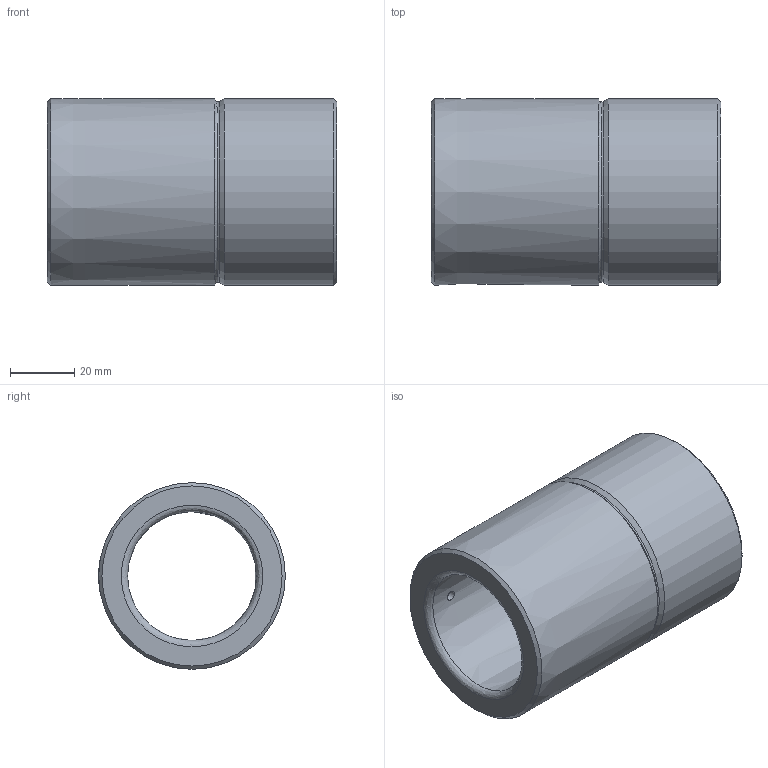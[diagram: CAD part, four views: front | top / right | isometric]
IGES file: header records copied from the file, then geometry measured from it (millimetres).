
Start section: Data from Parasolid IGES Translator 20.0.26, Copyright(c) 2006 Siemens P LM Software. All Rights Reserved.
Global section: file name: WZ 4068 40 x 90.igs; native system: By Siemens PLM Incorporated; preprocessor: XPlus GENERIC/IGES 20.0.26; author: Noname; organization: Noname; date: 20201126.202318; units: millimetre
Bounding box: 90 x 58.04 x 58.04 mm (x, y, z)
Surface area: 30638.8 mm2 (no closed solid volume)
Topology: 0 solids, 0 shells, 17 faces, 64 edges, 47 vertices
Faces by surface type: revolution 13, extrusion 4
